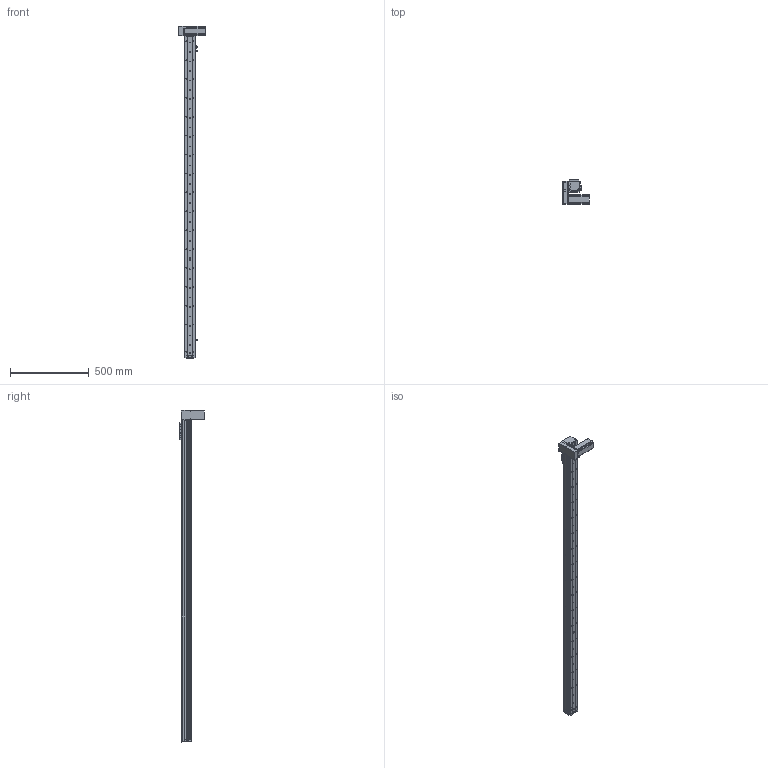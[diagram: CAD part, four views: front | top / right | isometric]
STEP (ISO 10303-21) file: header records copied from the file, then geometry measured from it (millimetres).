
FILE_DESCRIPTION (( 'STEP AP214' ), '1' );
FILE_NAME ('KSD68BS-S1850-MRD-CR.STEP', '2019-11-08T04:01:05', ( '微软用户' ), ( '微软中国' ), 'SwSTEP 2.0', 'SolidWorks 2014', '' );
FILE_SCHEMA (( 'AUTOMOTIVE_DESIGN' ));
Length unit declared in the file: millimetre
Products named in the file (14): 68宽单导轨全封闭丝杆传动安装板1防护罩; KSD68BS 1850行程侧板全封闭; 68宽单导轨全封闭同步带端板; 68单导轨全封闭同步带电机座右; 68单导轨全封闭同步带安装板; 悵誘欶奻狟殏; 68宽马达安装板连板上折同步带; 感应片68宽全封闭; U倰嫖萇EEㄜSX672; KSD68BS 1850行程盖板全封闭; 台达ECMA－C20604AS伺服电机（400W); 68遵裔啣揤啣1; KSD68BS 1850行程底板全封闭; KSD68BS-S1850-MRD-CR
Assembly tree (17 placements, depth 2):
  KSD68BS-S1850-MRD-CR
    KSD68BS 1850行程底板全封闭
    台达ECMA－C20604AS伺服电机（400W)
    U倰嫖萇EEㄜSX672  x3
    感应片68宽全封闭
    68宽马达安装板连板上折同步带
    悵誘欶奻狟殏
    68单导轨全封闭同步带安装板
    68单导轨全封闭同步带电机座右
    68宽单导轨全封闭同步带端板
    KSD68BS 1850行程侧板全封闭  x2
    68宽单导轨全封闭丝杆传动安装板1防护罩
    68遵裔啣揤啣1  x2
    KSD68BS 1850行程盖板全封闭
Bounding box: 167.2 x 155.5 x 2108.1 mm (x, y, z)
Volume: 3682753.2 mm3; surface area: 1512018.6 mm2
Topology: 18 solids, 18 shells, 1638 faces, 4735 edges, 3013 vertices
Faces by surface type: cylinder 811, plane 631, cone 196
Entity records: 53834 total; most frequent: CARTESIAN_POINT 9363, DIRECTION 8007, ORIENTED_EDGE 7658, EDGE_CURVE 3829, AXIS2_PLACEMENT_3D 2927, VERTEX_POINT 2511, VECTOR 2153, LINE 2153
